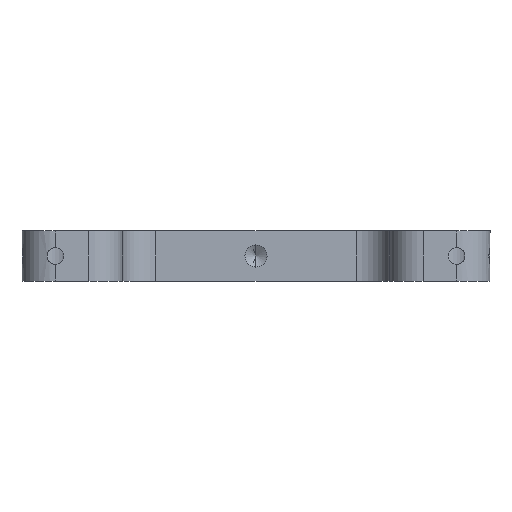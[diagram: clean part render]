
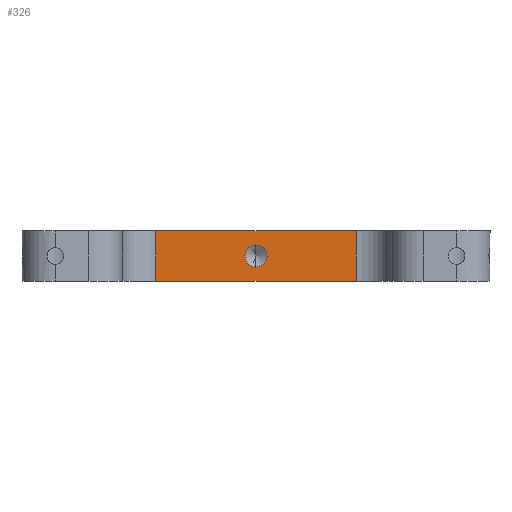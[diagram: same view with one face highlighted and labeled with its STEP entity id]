
A CAD part, front view. The second image highlights one B-rep face of the part: STEP entity #326.
In plain terms, the highlighted planar face has unit normal (0, -1, 0).
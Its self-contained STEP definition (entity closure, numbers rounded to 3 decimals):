
#45 = ORIENTED_EDGE ( 'NONE', *, *, #602, .T. ) ;
#68 = EDGE_CURVE ( 'NONE', #2544, #2710, #1299, .T. ) ;
#169 = AXIS2_PLACEMENT_3D ( 'NONE', #2036, #470, #216 ) ;
#206 = VERTEX_POINT ( 'NONE', #549 ) ;
#216 = DIRECTION ( 'NONE',  ( -1., 0., 0. ) ) ;
#278 = VERTEX_POINT ( 'NONE', #3022 ) ;
#326 = ADVANCED_FACE ( 'NONE', ( #1144, #541 ), #3361, .F. ) ;
#470 = DIRECTION ( 'NONE',  ( 0., 1., 0. ) ) ;
#541 = FACE_OUTER_BOUND ( 'NONE', #638, .T. ) ;
#549 = CARTESIAN_POINT ( 'NONE',  ( 15., -25., 7.5 ) ) ;
#565 = ORIENTED_EDGE ( 'NONE', *, *, #68, .T. ) ;
#584 = DIRECTION ( 'NONE',  ( -1., 0., 0. ) ) ;
#602 = EDGE_CURVE ( 'NONE', #2710, #852, #2584, .T. ) ;
#638 = EDGE_LOOP ( 'NONE', ( #2050, #565, #45, #972 ) ) ;
#823 = EDGE_LOOP ( 'NONE', ( #2210, #1090 ) ) ;
#852 = VERTEX_POINT ( 'NONE', #1055 ) ;
#864 = CARTESIAN_POINT ( 'NONE',  ( 20., -25., 7.5 ) ) ;
#879 = EDGE_CURVE ( 'NONE', #852, #206, #1026, .T. ) ;
#972 = ORIENTED_EDGE ( 'NONE', *, *, #879, .T. ) ;
#1006 = DIRECTION ( 'NONE',  ( 1., 0., 0. ) ) ;
#1026 = LINE ( 'NONE', #2112, #3036 ) ;
#1055 = CARTESIAN_POINT ( 'NONE',  ( 15., -25., 0. ) ) ;
#1090 = ORIENTED_EDGE ( 'NONE', *, *, #2879, .F. ) ;
#1144 = FACE_BOUND ( 'NONE', #823, .T. ) ;
#1239 = CARTESIAN_POINT ( 'NONE',  ( 0., -25., 3.75 ) ) ;
#1277 = DIRECTION ( 'NONE',  ( 0., -1., 0. ) ) ;
#1299 = LINE ( 'NONE', #1729, #1827 ) ;
#1301 = EDGE_CURVE ( 'NONE', #206, #2544, #2434, .T. ) ;
#1457 = VERTEX_POINT ( 'NONE', #2836 ) ;
#1495 = DIRECTION ( 'NONE',  ( 0., 0., -1. ) ) ;
#1535 = CARTESIAN_POINT ( 'NONE',  ( 20., -25., 0. ) ) ;
#1663 = AXIS2_PLACEMENT_3D ( 'NONE', #2849, #1277, #3113 ) ;
#1729 = CARTESIAN_POINT ( 'NONE',  ( -15., -25., 0. ) ) ;
#1756 = CARTESIAN_POINT ( 'NONE',  ( -15., -25., 7.5 ) ) ;
#1827 = VECTOR ( 'NONE', #2514, 1000. ) ;
#1996 = EDGE_CURVE ( 'NONE', #278, #1457, #2909, .T. ) ;
#2014 = AXIS2_PLACEMENT_3D ( 'NONE', #1239, #3073, #1495 ) ;
#2036 = CARTESIAN_POINT ( 'NONE',  ( 20., -25., -0.001 ) ) ;
#2050 = ORIENTED_EDGE ( 'NONE', *, *, #1301, .T. ) ;
#2112 = CARTESIAN_POINT ( 'NONE',  ( 15., -25., 7.5 ) ) ;
#2210 = ORIENTED_EDGE ( 'NONE', *, *, #1996, .F. ) ;
#2306 = CARTESIAN_POINT ( 'NONE',  ( -15., -25., 0. ) ) ;
#2355 = VECTOR ( 'NONE', #584, 1000. ) ;
#2434 = LINE ( 'NONE', #864, #2355 ) ;
#2514 = DIRECTION ( 'NONE',  ( 0., 0., -1. ) ) ;
#2544 = VERTEX_POINT ( 'NONE', #1756 ) ;
#2584 = LINE ( 'NONE', #1535, #3130 ) ;
#2710 = VERTEX_POINT ( 'NONE', #2306 ) ;
#2836 = CARTESIAN_POINT ( 'NONE',  ( 0., -25., 5.4 ) ) ;
#2849 = CARTESIAN_POINT ( 'NONE',  ( 0., -25., 3.75 ) ) ;
#2879 = EDGE_CURVE ( 'NONE', #1457, #278, #3097, .T. ) ;
#2906 = DIRECTION ( 'NONE',  ( 0., 0., 1. ) ) ;
#2909 = CIRCLE ( 'NONE', #2014, 1.65 ) ;
#3022 = CARTESIAN_POINT ( 'NONE',  ( 0., -25., 2.1 ) ) ;
#3036 = VECTOR ( 'NONE', #2906, 1000. ) ;
#3073 = DIRECTION ( 'NONE',  ( 0., -1., 0. ) ) ;
#3097 = CIRCLE ( 'NONE', #1663, 1.65 ) ;
#3113 = DIRECTION ( 'NONE',  ( 0., 0., -1. ) ) ;
#3130 = VECTOR ( 'NONE', #1006, 1000. ) ;
#3361 = PLANE ( 'NONE',  #169 ) ;
